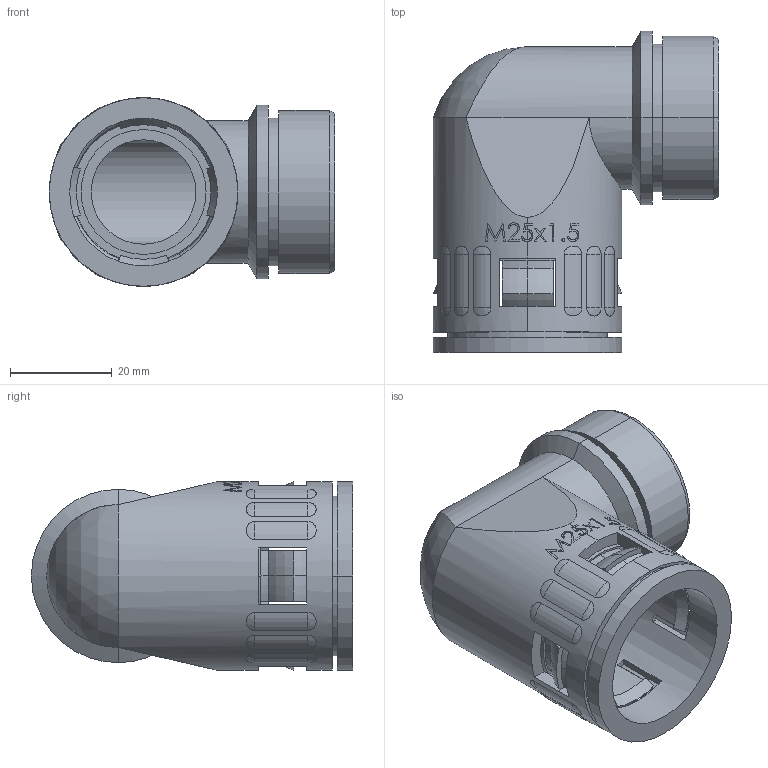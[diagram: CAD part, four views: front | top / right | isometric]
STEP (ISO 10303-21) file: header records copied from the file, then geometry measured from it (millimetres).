
FILE_DESCRIPTION (( 'STEP AP203' ), '1' );
FILE_NAME ('WQW-M25-AD28.5.STEP', '2015-05-06T06:19:32', ( 'User' ), ( 'Microsoft' ), 'SwSTEP 2.0', 'SolidWorks 2010', '' );
FILE_SCHEMA (( 'CONFIG_CONTROL_DESIGN' ));
Length unit declared in the file: millimetre
Products named in the file (4): WQW-M25-AD28.5-01; GFD-AD28.5; NSK-AD28.5; WQW-M25-AD28.5
Assembly tree (3 placements, depth 2):
  WQW-M25-AD28.5
    GFD-AD28.5
    NSK-AD28.5
    WQW-M25-AD28.5-01
Bounding box: 56 x 63 x 37 mm (x, y, z)
Volume: 34631.3 mm3; surface area: 23035.3 mm2
Topology: 3 solids, 3 shells, 301 faces, 793 edges, 510 vertices
Faces by surface type: plane 128, cylinder 55, cone 36, bspline 30, torus 27, sphere 25
Entity records: 12870 total; most frequent: CARTESIAN_POINT 5186, ORIENTED_EDGE 1580, DIRECTION 1474, EDGE_CURVE 790, AXIS2_PLACEMENT_3D 568, VERTEX_POINT 510, VECTOR 338, LINE 338
